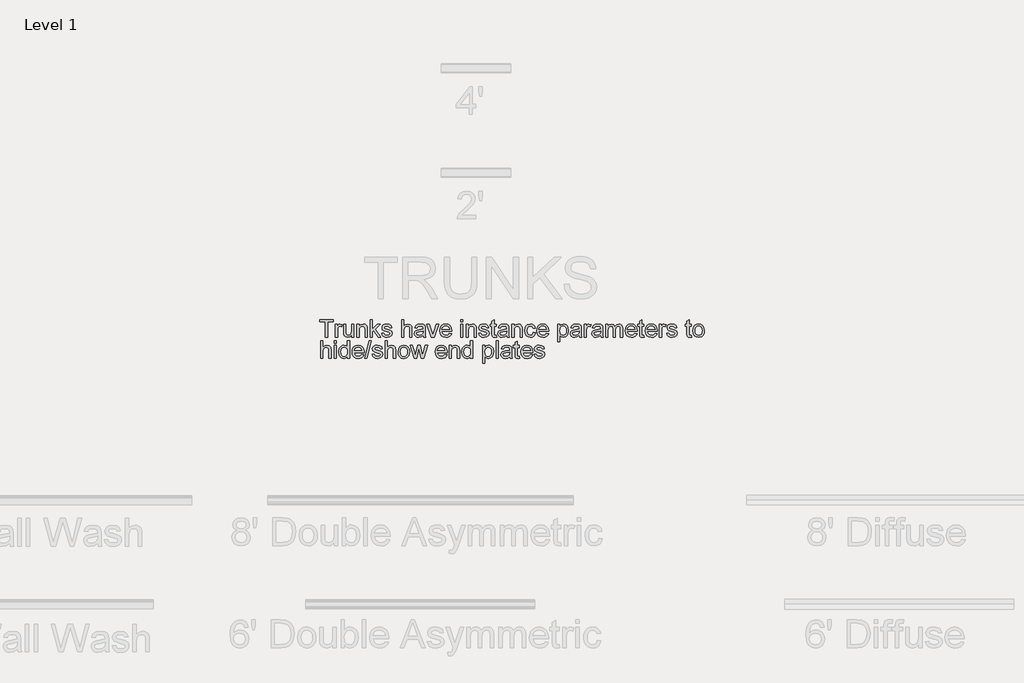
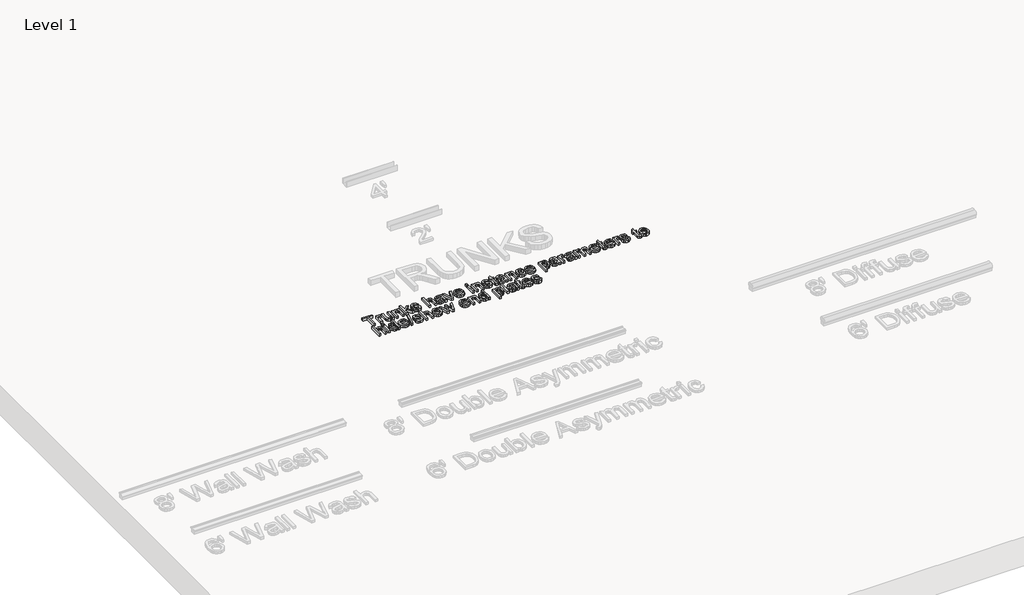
# One storey, part 6 of 9: 1 proxy.
"""IFC4 building model written with IfcOpenShell, lengths in millimetres."""

import ifcopenshell
import ifcopenshell.guid

model = None  # the IFC model being written
_history = None  # IfcOwnerHistory: only IFC2X3 demands one
_inside = {}  # id of a spatial element -> (the spatial element, [elements in it])
_under = {}  # id of a project, library or spatial element -> (it, [spatial elements below it])
_declared = {}  # id of a project -> (the project, [libraries it declares])
_typed = {}  # id of a type object -> (the type object, [elements of that type])
_made_of = {}  # id of a material, layer set ... -> (it, [elements and type objects made of it])


def new_model(schema):
    """Start an empty IFC model of exactly this schema.

    Asked for "IFC4X3", IfcOpenShell would pick the latest addendum, in which some entities
    have other attributes; the version numbers below select the first issue.
    IFC2X3 requires an IfcOwnerHistory on every rooted entity: one is made here for all.
    """
    global model, _history
    if schema == "IFC4X3":
        model = ifcopenshell.file(schema_version=(4, 3, 0, 0))
    else:
        model = ifcopenshell.file(schema=schema)
    _inside.clear()
    _under.clear()
    _declared.clear()
    _typed.clear()
    _made_of.clear()
    _history = None
    if model.schema == "IFC2X3":
        org = make("IfcOrganization", Name="unknown")
        user = make(
            "IfcPersonAndOrganization",
            ThePerson=make("IfcPerson", FamilyName="unknown"),
            TheOrganization=org,
        )
        app = make(
            "IfcApplication",
            ApplicationDeveloper=org,
            Version="unknown",
            ApplicationFullName="unknown",
            ApplicationIdentifier="unknown",
        )
        _history = make(
            "IfcOwnerHistory",
            OwningUser=user,
            OwningApplication=app,
            ChangeAction="ADDED",
            CreationDate=0,
        )
    return model


def make(cls, **values):
    """One entity of the class cls with the attributes given. An attribute that is None is left unset."""
    return model.create_entity(
        cls, **{name: value for name, value in values.items() if value is not None}
    )


def rooted(cls, **values):
    """An entity with a GlobalId (a new one), such as an element, a storey or a relation."""
    return make(cls, GlobalId=ifcopenshell.guid.new(), OwnerHistory=_history, **values)


def si_unit(unit_type, name, prefix=None):
    """IfcSIUnit, for example si_unit("LENGTHUNIT", "METRE", prefix="MILLI")."""
    return make("IfcSIUnit", UnitType=unit_type, Prefix=prefix, Name=name)


def assignment(units):
    """IfcUnitAssignment: the units of a project."""
    return None if units is None else make("IfcUnitAssignment", Units=units)


def point(xyz):
    """IfcCartesianPoint."""
    return None if xyz is None else make("IfcCartesianPoint", Coordinates=xyz)


def direction(xyz):
    """IfcDirection."""
    return None if xyz is None else make("IfcDirection", DirectionRatios=xyz)


def frame(location, z_axis=None, x_axis=None):
    """IfcAxis2Placement3D, a coordinate frame: its origin and axes. An axis left out is left unset."""
    return make(
        "IfcAxis2Placement3D",
        Location=point(location),
        Axis=direction(z_axis),
        RefDirection=direction(x_axis),
    )


def origin():
    """The frame at (0, 0, 0) with its axes left unset."""
    return frame((0.0, 0.0, 0.0))


def origin_with_axes():
    """The frame at (0, 0, 0) with the z axis (0, 0, 1) and the x axis (1, 0, 0) written out."""
    return frame((0.0, 0.0, 0.0), z_axis=(0.0, 0.0, 1.0), x_axis=(1.0, 0.0, 0.0))


def place(relative_to, where):
    """IfcLocalPlacement: puts the frame where relative to a parent placement (None: the world)."""
    return make(
        "IfcLocalPlacement", PlacementRelTo=relative_to, RelativePlacement=where
    )


def context(
    kind, dimensions, precision=None, world=None, true_north=None, identifier=None
):
    """IfcGeometricRepresentationContext, for example the 3D "Model" context."""
    return make(
        "IfcGeometricRepresentationContext",
        ContextIdentifier=identifier,
        ContextType=kind,
        CoordinateSpaceDimension=dimensions,
        Precision=precision,
        WorldCoordinateSystem=world,
        TrueNorth=true_north,
    )


def project(units=None, contexts=None):
    """IfcProject with its units and contexts."""
    return rooted(
        "IfcProject",
        Name="project",
        RepresentationContexts=contexts,
        UnitsInContext=assignment(units),
    )


def spatial(cls, under=None, at=None, **own):
    """A site, building, storey or space (cls), placed at a placement, below another one or the project."""
    s = rooted(cls, ObjectPlacement=at, **own)
    if under is not None:
        _under.setdefault(under.id(), (under, []))[1].append(s)
    return s


def polyline(points):
    """IfcPolyline through the points."""
    return make("IfcPolyline", Points=[point(p) for p in points])


def outline(outer, holes=None, kind="AREA"):
    """IfcArbitraryClosedProfileDef: a profile drawn as a closed curve; with holes, ...WithVoids."""
    if holes is None:
        return make("IfcArbitraryClosedProfileDef", ProfileType=kind, OuterCurve=outer)
    return make(
        "IfcArbitraryProfileDefWithVoids",
        ProfileType=kind,
        OuterCurve=outer,
        InnerCurves=holes,
    )


def extrude(swept, where, along, depth):
    """IfcExtrudedAreaSolid: the profile swept, set in the frame where, extruded along a direction by depth."""
    return make(
        "IfcExtrudedAreaSolid",
        SweptArea=swept,
        Position=where,
        ExtrudedDirection=direction(along),
        Depth=depth,
    )


def shape(context_of_items, identifier, shape_type, items):
    """IfcShapeRepresentation: the items that make up one representation, for example the "Body"."""
    return make(
        "IfcShapeRepresentation",
        ContextOfItems=context_of_items,
        RepresentationIdentifier=identifier,
        RepresentationType=shape_type,
        Items=items,
    )


def made_of(thing, what):
    """Note that an element or type object is made of a material, layer set ...; save() writes the relation."""
    if what is not None:
        _made_of.setdefault(what.id(), (what, []))[1].append(thing)
    return thing


def element(
    cls,
    number,
    at=None,
    inside=None,
    cuts=None,
    type_object=None,
    material=None,
    context=None,
    identifier="Body",
    shape_type=None,
    held_by="IfcProductDefinitionShape",
    body=None,
    shapes=None,
    **own,
):
    """One element of the class cls, such as IfcWall. Its Tag is "e" and its number.

    at: its placement. inside: the storey or other place that contains it. cuts: it is an
    opening in that element (IfcRelVoidsElement). A single representation is given by context,
    identifier, shape_type and body (its items); several are given by shapes. held_by: the class
    of the entity that holds the representations. save() writes the other relations.
    """
    e = rooted(cls, Tag="e%d" % number, ObjectPlacement=at, **own)
    if body is not None:
        shapes = [shape(context, identifier, shape_type, body)]
    if shapes is not None:
        e.Representation = make(held_by, Representations=shapes)
    if inside is not None:
        _inside.setdefault(inside.id(), (inside, []))[1].append(e)
    if cuts is not None:
        rooted(
            "IfcRelVoidsElement", RelatingBuildingElement=cuts, RelatedOpeningElement=e
        )
    if type_object is not None:
        _typed.setdefault(type_object.id(), (type_object, []))[1].append(e)
    return made_of(e, material)


def aggregate(whole, parts):
    """IfcRelAggregates: a whole, such as a stair, and the parts it consists of."""
    return rooted("IfcRelAggregates", RelatingObject=whole, RelatedObjects=parts)


def save(model, path):
    """Write the relations noted so far, then the file.

    IfcRelAggregates (storeys below a building ...), IfcRelContainedInSpatialStructure (elements
    in a storey), IfcRelDefinesByType, IfcRelAssociatesMaterial and IfcRelDeclares: one each for
    every whole, place, type object, material and project.
    """
    for whole, parts in _under.values():
        aggregate(whole, parts)
    for where, things in _inside.values():
        rooted(
            "IfcRelContainedInSpatialStructure",
            RelatedElements=things,
            RelatingStructure=where,
        )
    for kind, things in _typed.values():
        rooted("IfcRelDefinesByType", RelatedObjects=things, RelatingType=kind)
    for what, things in _made_of.values():
        rooted("IfcRelAssociatesMaterial", RelatedObjects=things, RelatingMaterial=what)
    for by, libraries in _declared.values():
        rooted("IfcRelDeclares", RelatingContext=by, RelatedDefinitions=libraries)
    model.write(path)


model = new_model("IFC4")

# Units and contexts
model_context = context("Model", 3, world=origin())
ifc_project = project(units=[si_unit("LENGTHUNIT", "METRE", prefix="MILLI")], contexts=[model_context])

# Site, building, storey
site = spatial("IfcSite", under=ifc_project)
building = spatial("IfcBuilding", under=site)
storey = spatial("IfcBuildingStorey", under=building, Name="Level 1", Elevation=0.0)

# Proxy
placement = place(None, origin())
element("IfcBuildingElementProxy", 1, Name="5\"", ObjectType="5\"", at=placement, inside=storey, context=model_context, shape_type="SweptSolid", body=[
    extrude(outline(polyline([(-8440.875336, 8972.2970879), (-8440.875336, 9083.9291626), (-8482.737364, 9083.9291626), (-8482.737364, 9099.8766018), (-8383.0658688, 9099.8766018), (-8383.0658688, 9083.9291626), (-8424.9278968, 9083.9291626), (-8424.9278968, 8972.2970879), (-8440.875336, 8972.2970879)])), origin_with_axes(), (0.0, 0.0, 1.0), 25.4),
    extrude(outline(polyline([(-8367.1184295, 8972.2970879), (-8367.1184295, 9065.9882934), (-8353.1644202, 9065.9882934), (-8353.1644202, 9052.1277261), (-8343.2595654, 9064.8981365), (-8333.2924158, 9067.9817233), (-8317.2826819, 9063.0604433), (-8322.6088774, 9048.7638132), (-8333.8219207, 9052.0342841), (-8342.8390762, 9048.8884025), (-8348.5857609, 9040.1671467), (-8351.1709903, 9021.541036), (-8351.1709903, 8972.2970879), (-8367.1184295, 8972.2970879)])), origin_with_axes(), (0.0, 0.0, 1.0), 25.4),
    extrude(outline(polyline([(-8247.5126353, 8972.2970879), (-8247.5126353, 8988.4002639), (-8260.0027195, 8974.8278095), (-8276.2927795, 8970.303658), (-8291.2902248, 8973.4806869), (-8301.6311424, 8981.4544065), (-8306.3811121, 8993.1969546), (-8307.3155324, 9008.0230895), (-8307.3155324, 9065.9882934), (-8291.3680932, 9065.9882934), (-8291.3680932, 9015.529599), (-8290.4025256, 8999.2706863), (-8284.0951887, 8989.7240259), (-8272.2124777, 8986.2510973), (-8258.8969889, 8989.8018943), (-8250.0978647, 8999.473144), (-8247.5126353, 9017.2427028), (-8247.5126353, 9065.9882934), (-8231.565196, 9065.9882934), (-8231.565196, 8972.2970879), (-8247.5126353, 8972.2970879)])), origin_with_axes(), (0.0, 0.0, 1.0), 25.4),
    extrude(outline(polyline([(-8209.6374671, 8972.2970879), (-8209.6374671, 9065.9882934), (-8193.6900278, 9065.9882934), (-8193.6900278, 9052.9064097), (-8181.4958433, 9064.2128949), (-8164.8475889, 9067.9817233), (-8149.7878489, 9064.9448575), (-8139.509226, 9056.9711379), (-8134.7281089, 9045.2441635), (-8133.8871307, 9029.8262291), (-8133.8871307, 8972.2970879), (-8149.8345699, 8972.2970879), (-8149.8345699, 9027.6770625), (-8151.6722631, 9041.7868085), (-8158.166484, 9049.246597), (-8169.1147748, 9052.0342841), (-8178.4550841, 9050.4691302), (-8186.4171234, 9045.7736683), (-8191.8718017, 9036.7020049), (-8193.6900278, 9022.0082462), (-8193.6900278, 8972.2970879), (-8209.6374671, 8972.2970879)])), origin_with_axes(), (0.0, 0.0, 1.0), 25.4),
    extrude(outline(polyline([(-8111.9594018, 8972.2970879), (-8111.9594018, 9099.8766018), (-8096.0119625, 9099.8766018), (-8096.0119625, 9031.3213015), (-8060.2548136, 9065.9882934), (-8038.2024953, 9065.9882934), (-8074.395707, 9030.8852387), (-8036.2090654, 8972.2970879), (-8054.8351761, 8972.2970879), (-8085.8267816, 9019.7967849), (-8096.0119625, 9009.9230774), (-8096.0119625, 8972.2970879), (-8111.9594018, 8972.2970879)])), origin_with_axes(), (0.0, 0.0, 1.0), 25.4),
    extrude(outline(polyline([(-8028.2353458, 9000.2051066), (-8012.2879065, 9002.1985365), (-8004.9059864, 8990.3625464), (-7987.9929796, 8986.2510973), (-7971.7340669, 8990.0199257), (-7966.4390187, 8998.8657709), (-7971.7652143, 9006.0296596), (-7988.1798636, 9010.5771716), (-8012.1944645, 9018.3795808), (-8022.6755452, 9027.4901784), (-8026.2419159, 9040.3540308), (-8023.3763604, 9052.2367418), (-8015.5583775, 9061.3161921), (-8005.4199176, 9066.0350144), (-7991.6995133, 9067.9817233), (-7972.2947191, 9064.8514154), (-7959.9603715, 9056.3793383), (-7954.4784393, 9042.0671346), (-7970.4258785, 9040.0737047), (-7976.4217419, 9048.8728289), (-7990.4536196, 9052.0342841), (-8005.7158173, 9049.0129919), (-8010.2944766, 9041.9736926), (-8008.3944887, 9037.3327386), (-8002.4453464, 9033.8130889), (-7988.7093684, 9030.4180286), (-7965.3021407, 9022.9115191), (-7954.4317183, 9014.4082947), (-7950.4915795, 9000.5477273), (-7955.1169598, 8985.2855296), (-7968.463596, 8974.2126495), (-7988.211011, 8970.303658), (-8004.2908264, 8972.1880722), (-8016.0255876, 8977.8413148), (-8023.8591442, 8987.2010912), (-8028.2353458, 9000.2051066)])), origin_with_axes(), (0.0, 0.0, 1.0), 25.4),
    extrude(outline(polyline([(-7882.7149627, 8972.2970879), (-7882.7149627, 9099.8766018), (-7866.7675235, 9099.8766018), (-7866.7675235, 9052.9687044), (-7854.3319471, 9064.2284686), (-7839.0152415, 9067.9817233), (-7821.1055197, 9063.8858478), (-7810.2350973, 9052.5637889), (-7806.9646264, 9031.6016276), (-7806.9646264, 8972.2970879), (-7822.9120656, 8972.2970879), (-7822.9120656, 9029.9508184), (-7824.1813198, 9039.9335416), (-7827.9890824, 9046.7703833), (-7834.1251088, 9050.7183089), (-7842.3791545, 9052.0342841), (-7855.4454646, 9048.4834871), (-7864.1667204, 9038.8589583), (-7866.7675235, 9022.0705408), (-7866.7675235, 8972.2970879), (-7882.7149627, 8972.2970879)])), origin_with_axes(), (0.0, 0.0, 1.0), 25.4),
    extrude(outline(polyline([(-7725.2340003, 8984.2576673), (-7740.6986557, 8973.4495396), (-7757.7829729, 8970.303658), (-7771.110142, 8972.1958591), (-7780.9410219, 8977.8724622), (-7787.0030734, 8986.4924892), (-7789.0237572, 8997.2149617), (-7785.9713177, 9009.8296353), (-7777.950877, 9018.986954), (-7766.7845548, 9024.2197075), (-7752.9862822, 9026.6180528), (-7725.3274423, 9032.0999851), (-7725.2340003, 9035.6507821), (-7729.6257755, 9047.4244774), (-7747.2551713, 9052.0342841), (-7763.3894945, 9048.9662709), (-7771.0828881, 9038.0802748), (-7787.0303273, 9040.0737047), (-7780.131191, 9055.6473758), (-7766.2394764, 9064.7735471), (-7745.1994467, 9067.9817233), (-7725.8725208, 9065.1473152), (-7714.9553773, 9058.0301475), (-7710.0652446, 9047.2064461), (-7709.286561, 9033.2524367), (-7709.286561, 9013.4115797), (-7708.4767301, 8985.7060188), (-7705.2997012, 8972.2970879), (-7721.2471405, 8972.2970879), (-7725.2340003, 8984.2576673)]), holes=[polyline([(-7725.2340003, 9016.1525458), (-7750.961705, 9011.2624131), (-7764.6821092, 9008.6771837), (-7770.896004, 9004.4722925), (-7773.076318, 8998.336266), (-7768.3263483, 8989.7084522), (-7754.3879126, 8986.2510973), (-7738.2535893, 8990.0666467), (-7727.850377, 8999.3018337), (-7725.3274423, 9011.6361812), (-7725.2340003, 9016.1525458)])]), origin_with_axes(), (0.0, 0.0, 1.0), 25.4),
    extrude(outline(polyline([(-7664.3720935, 8972.2970879), (-7697.3259816, 9065.9882934), (-7680.4441221, 9065.9882934), (-7660.4786757, 9009.8607827), (-7654.4672387, 8990.9854933), (-7648.580391, 9008.801773), (-7628.4903552, 9065.9882934), (-7611.6084957, 9065.9882934), (-7644.1574684, 8972.2970879), (-7664.3720935, 8972.2970879)])), origin_with_axes(), (0.0, 0.0, 1.0), 25.4),
    extrude(outline(polyline([(-7532.0581836, 9000.2051066), (-7516.4222178, 8998.2116767), (-7522.0559933, 8986.4301945), (-7531.045895, 8977.6232834), (-7543.189465, 8972.1335644), (-7558.2842458, 8970.303658), (-7576.9960116, 8973.4612198), (-7591.3938706, 8982.9339053), (-7600.5745497, 8998.1065544), (-7603.6347761, 9018.3640071), (-7600.5434024, 9039.302808), (-7591.2692812, 9054.9621343), (-7577.0660932, 9064.7268261), (-7559.1875187, 9067.9817233), (-7541.865703, 9064.7346129), (-7528.0246028, 9054.9932816), (-7518.9490459, 9039.3651026), (-7515.9238603, 9018.4574491), (-7516.0173023, 9014.1591159), (-7587.6873369, 9014.1591159), (-7584.9269037, 9002.221897), (-7578.5144446, 8993.4461333), (-7569.2597905, 8988.0498563), (-7557.9727723, 8986.2510973), (-7542.3368065, 8989.5838629), (-7532.0581836, 9000.2051066)]), holes=[polyline([(-7587.6873369, 9030.1065552), (-7531.8712995, 9030.1065552), (-7538.2565047, 9044.558922), (-7547.5539864, 9050.1654436), (-7559.2498134, 9052.0342841), (-7569.9995399, 9050.5431051), (-7578.8882127, 9046.0695681), (-7585.0670667, 9039.0964568), (-7587.6873369, 9030.1065552)])]), origin_with_axes(), (0.0, 0.0, 1.0), 25.4),
    extrude(outline(polyline([(-7450.1406735, 9083.9291626), (-7450.1406735, 9099.8766018), (-7434.1932342, 9099.8766018), (-7434.1932342, 9083.9291626), (-7450.1406735, 9083.9291626)])), origin_with_axes(), (0.0, 0.0, 1.0), 25.4),
    extrude(outline(polyline([(-7450.1406735, 8972.2970879), (-7450.1406735, 9065.9882934), (-7434.1932342, 9065.9882934), (-7434.1932342, 8972.2970879), (-7450.1406735, 8972.2970879)])), origin_with_axes(), (0.0, 0.0, 1.0), 25.4),
    extrude(outline(polyline([(-7410.2720754, 8972.2970879), (-7410.2720754, 9065.9882934), (-7394.3246361, 9065.9882934), (-7394.3246361, 9052.9064097), (-7382.1304516, 9064.2128949), (-7365.4821972, 9067.9817233), (-7350.4224572, 9064.9448575), (-7340.1438343, 9056.9711379), (-7335.3627172, 9045.2441635), (-7334.521739, 9029.8262291), (-7334.521739, 8972.2970879), (-7350.4691782, 8972.2970879), (-7350.4691782, 9027.6770625), (-7352.3068714, 9041.7868085), (-7358.8010923, 9049.246597), (-7369.7493831, 9052.0342841), (-7379.0896923, 9050.4691302), (-7387.0517317, 9045.7736683), (-7392.50641, 9036.7020049), (-7394.3246361, 9022.0082462), (-7394.3246361, 8972.2970879), (-7410.2720754, 8972.2970879)])), origin_with_axes(), (0.0, 0.0, 1.0), 25.4),
    extrude(outline(polyline([(-7318.5742998, 9000.2051066), (-7302.6268605, 9002.1985365), (-7295.2449404, 8990.3625464), (-7278.3319336, 8986.2510973), (-7262.0730209, 8990.0199257), (-7256.7779727, 8998.8657709), (-7262.1041682, 9006.0296596), (-7278.5188176, 9010.5771716), (-7302.5334185, 9018.3795808), (-7313.0144992, 9027.4901784), (-7316.5808698, 9040.3540308), (-7313.7153144, 9052.2367418), (-7305.8973315, 9061.3161921), (-7295.7588715, 9066.0350144), (-7282.0384673, 9067.9817233), (-7262.6336731, 9064.8514154), (-7250.2993255, 9056.3793383), (-7244.8173933, 9042.0671346), (-7260.7648325, 9040.0737047), (-7266.7606959, 9048.8728289), (-7280.7925736, 9052.0342841), (-7296.0547713, 9049.0129919), (-7300.6334306, 9041.9736926), (-7298.7334427, 9037.3327386), (-7292.7843004, 9033.8130889), (-7279.0483224, 9030.4180286), (-7255.6410947, 9022.9115191), (-7244.7706723, 9014.4082947), (-7240.8305335, 9000.5477273), (-7245.4559138, 8985.2855296), (-7258.80255, 8974.2126495), (-7278.5499649, 8970.303658), (-7294.6297804, 8972.1880722), (-7306.3645416, 8977.8413148), (-7314.1980982, 8987.2010912), (-7318.5742998, 9000.2051066)])), origin_with_axes(), (0.0, 0.0, 1.0), 25.4),
    extrude(outline(polyline([(-7189.001356, 8985.5970031), (-7187.0079261, 8971.8298778), (-7198.9373581, 8970.303658), (-7212.299568, 8972.9511821), (-7218.9650992, 8979.8970394), (-7220.8962344, 8997.9936453), (-7220.8962344, 9050.0408542), (-7232.8568139, 9050.0408542), (-7232.8568139, 9065.9882934), (-7220.8962344, 9065.9882934), (-7220.8962344, 9088.7570006), (-7204.9487952, 9098.1323506), (-7204.9487952, 9065.9882934), (-7189.001356, 9065.9882934), (-7189.001356, 9050.0408542), (-7204.9487952, 9050.0408542), (-7204.9487952, 8998.4608554), (-7204.107817, 8990.2379571), (-7201.3824245, 8987.3256806), (-7195.9472133, 8986.2510973), (-7189.001356, 8985.5970031)])), origin_with_axes(), (0.0, 0.0, 1.0), 25.4),
    extrude(outline(polyline([(-7113.2510196, 8984.2576673), (-7128.715675, 8973.4495396), (-7145.7999922, 8970.303658), (-7159.1271613, 8972.1958591), (-7168.9580412, 8977.8724622), (-7175.0200927, 8986.4924892), (-7177.0407765, 8997.2149617), (-7173.988337, 9009.8296353), (-7165.9678964, 9018.986954), (-7154.8015742, 9024.2197075), (-7141.0033015, 9026.6180528), (-7113.3444616, 9032.0999851), (-7113.2510196, 9035.6507821), (-7117.6427948, 9047.4244774), (-7135.2721906, 9052.0342841), (-7151.4065139, 9048.9662709), (-7159.0999074, 9038.0802748), (-7175.0473466, 9040.0737047), (-7168.1482103, 9055.6473758), (-7154.2564957, 9064.7735471), (-7133.216466, 9067.9817233), (-7113.8895401, 9065.1473152), (-7102.9723966, 9058.0301475), (-7098.0822639, 9047.2064461), (-7097.3035803, 9033.2524367), (-7097.3035803, 9013.4115797), (-7096.4937494, 8985.7060188), (-7093.3167205, 8972.2970879), (-7109.2641598, 8972.2970879), (-7113.2510196, 8984.2576673)]), holes=[polyline([(-7113.2510196, 9016.1525458), (-7138.9787243, 9011.2624131), (-7152.6991286, 9008.6771837), (-7158.9130233, 9004.4722925), (-7161.0933373, 8998.336266), (-7156.3433676, 8989.7084522), (-7142.4049319, 8986.2510973), (-7126.2706086, 8990.0666467), (-7115.8673963, 8999.3018337), (-7113.3444616, 9011.6361812), (-7113.2510196, 9016.1525458)])]), origin_with_axes(), (0.0, 0.0, 1.0), 25.4),
    extrude(outline(polyline([(-7075.3758514, 8972.2970879), (-7075.3758514, 9065.9882934), (-7059.4284122, 9065.9882934), (-7059.4284122, 9052.9064097), (-7047.2342277, 9064.2128949), (-7030.5859732, 9067.9817233), (-7015.5262332, 9064.9448575), (-7005.2476103, 9056.9711379), (-7000.4664933, 9045.2441635), (-6999.625515, 9029.8262291), (-6999.625515, 8972.2970879), (-7015.5729543, 8972.2970879), (-7015.5729543, 9027.6770625), (-7017.4106475, 9041.7868085), (-7023.9048683, 9049.246597), (-7034.8531591, 9052.0342841), (-7044.1934684, 9050.4691302), (-7052.1555077, 9045.7736683), (-7057.6101861, 9036.7020049), (-7059.4284122, 9022.0082462), (-7059.4284122, 8972.2970879), (-7075.3758514, 8972.2970879)])), origin_with_axes(), (0.0, 0.0, 1.0), 25.4),
    extrude(outline(polyline([(-6917.8948889, 9006.1853963), (-6901.9474497, 9004.1919664), (-6906.3937328, 8990.0082454), (-6914.7490074, 8979.2896663), (-6926.226803, 8972.5501601), (-6940.0406493, 8970.303658), (-6957.0042706, 8973.4378593), (-6970.2691449, 8982.8404633), (-6978.8307707, 8998.0987676), (-6981.6846459, 9018.8000699), (-6976.8100868, 9045.2908845), (-6970.6584867, 9055.2229933), (-6961.9528046, 9062.312907), (-6940.2586807, 9067.9817233), (-6926.7835617, 9066.0350144), (-6916.0104747, 9060.1948878), (-6908.2820404, 9050.7728167), (-6903.9408796, 9038.0802748), (-6919.8883188, 9036.0868449), (-6927.2858126, 9048.0318506), (-6940.1340913, 9052.0342841), (-6950.4399682, 9050.0642147), (-6958.6200389, 9044.1540065), (-6963.9579147, 9033.9843993), (-6965.7372066, 9019.2361327), (-6963.9968489, 9004.2893018), (-6958.7757757, 8994.0846538), (-6950.7436548, 8988.2094864), (-6940.5701541, 8986.2510973), (-6925.5415615, 8991.14123), (-6917.8948889, 9006.1853963)])), origin_with_axes(), (0.0, 0.0, 1.0), 25.4),
    extrude(outline(polyline([(-6822.3971376, 9000.2051066), (-6806.7611718, 8998.2116767), (-6812.3949473, 8986.4301945), (-6821.384849, 8977.6232834), (-6833.528419, 8972.1335644), (-6848.6231998, 8970.303658), (-6867.3349656, 8973.4612198), (-6881.7328246, 8982.9339053), (-6890.9135037, 8998.1065544), (-6893.9737301, 9018.3640071), (-6890.8823564, 9039.302808), (-6881.6082352, 9054.9621343), (-6867.4050471, 9064.7268261), (-6849.5264727, 9067.9817233), (-6832.204657, 9064.7346129), (-6818.3635568, 9054.9932816), (-6809.2879999, 9039.3651026), (-6806.2628143, 9018.4574491), (-6806.3562563, 9014.1591159), (-6878.0262909, 9014.1591159), (-6875.2658576, 9002.221897), (-6868.8533986, 8993.4461333), (-6859.5987445, 8988.0498563), (-6848.3117263, 8986.2510973), (-6832.6757605, 8989.5838629), (-6822.3971376, 9000.2051066)]), holes=[polyline([(-6878.0262909, 9030.1065552), (-6822.2102535, 9030.1065552), (-6828.5954587, 9044.558922), (-6837.8929404, 9050.1654436), (-6849.5887674, 9052.0342841), (-6860.3384939, 9050.5431051), (-6869.2271667, 9046.0695681), (-6875.4060207, 9039.0964568), (-6878.0262909, 9030.1065552)])]), origin_with_axes(), (0.0, 0.0, 1.0), 25.4),
    extrude(outline(polyline([(-6740.4796274, 8936.4153496), (-6740.4796274, 9065.9882934), (-6724.5321882, 9065.9882934), (-6724.5321882, 9050.3523276), (-6713.506029, 9063.5743744), (-6698.6175994, 9067.9817233), (-6687.8328322, 9066.4399299), (-6678.4029743, 9061.8145496), (-6670.7251545, 9054.3859084), (-6665.1965012, 9044.4343326), (-6660.7424313, 9019.8590795), (-6665.772727, 8994.0223591), (-6671.9399008, 8983.8838992), (-6680.3808306, 8976.4241108), (-6700.5487347, 8970.303658), (-6714.4248756, 8974.3995335), (-6724.5321882, 8984.7560248), (-6724.5321882, 8936.4153496), (-6740.4796274, 8936.4153496)]), holes=[polyline([(-6724.5321882, 9018.3951545), (-6722.8074041, 9004.0985244), (-6717.6330519, 8994.1002275), (-6709.9980596, 8988.2133798), (-6700.8913554, 8986.2510973), (-6691.6367014, 8988.2834613), (-6683.8070382, 8994.3805536), (-6678.4691624, 9004.7448317), (-6676.6898705, 9019.5787535), (-6678.4263348, 9033.7975152), (-6683.6357278, 9043.9359751), (-6691.2590398, 9050.0097069), (-6700.2372612, 9052.0342841), (-6709.2505234, 9049.8812241), (-6717.1658418, 9043.422044), (-6722.6906016, 9032.8592015), (-6724.5321882, 9018.3951545)])]), origin_with_axes(), (0.0, 0.0, 1.0), 25.4),
    extrude(outline(polyline([(-6582.998665, 8984.2576673), (-6598.4633204, 8973.4495396), (-6615.5476376, 8970.303658), (-6628.8748067, 8972.1958591), (-6638.7056866, 8977.8724622), (-6644.7677381, 8986.4924892), (-6646.7884219, 8997.2149617), (-6643.7359824, 9009.8296353), (-6635.7155418, 9018.986954), (-6624.5492196, 9024.2197075), (-6610.7509469, 9026.6180528), (-6583.092107, 9032.0999851), (-6582.998665, 9035.6507821), (-6587.3904402, 9047.4244774), (-6605.019836, 9052.0342841), (-6621.1541592, 9048.9662709), (-6628.8475528, 9038.0802748), (-6644.794992, 9040.0737047), (-6637.8958557, 9055.6473758), (-6624.0041411, 9064.7735471), (-6602.9641114, 9067.9817233), (-6583.6371855, 9065.1473152), (-6572.720042, 9058.0301475), (-6567.8299093, 9047.2064461), (-6567.0512257, 9033.2524367), (-6567.0512257, 9013.4115797), (-6566.2413948, 8985.7060188), (-6563.0643659, 8972.2970879), (-6579.0118052, 8972.2970879), (-6582.998665, 8984.2576673)]), holes=[polyline([(-6582.998665, 9016.1525458), (-6608.7263697, 9011.2624131), (-6622.4467739, 9008.6771837), (-6628.6606687, 9004.4722925), (-6630.8409827, 8998.336266), (-6626.091013, 8989.7084522), (-6612.1525773, 8986.2510973), (-6596.018254, 8990.0666467), (-6585.6150417, 8999.3018337), (-6583.092107, 9011.6361812), (-6582.998665, 9016.1525458)])]), origin_with_axes(), (0.0, 0.0, 1.0), 25.4),
    extrude(outline(polyline([(-6545.1234968, 8972.2970879), (-6545.1234968, 9065.9882934), (-6531.1694875, 9065.9882934), (-6531.1694875, 9052.1277261), (-6521.2646326, 9064.8981365), (-6511.2974831, 9067.9817233), (-6495.2877492, 9063.0604433), (-6500.6139447, 9048.7638132), (-6511.8269879, 9052.0342841), (-6520.8441435, 9048.8884025), (-6526.5908281, 9040.1671467), (-6529.1760576, 9021.541036), (-6529.1760576, 8972.2970879), (-6545.1234968, 8972.2970879)])), origin_with_axes(), (0.0, 0.0, 1.0), 25.4),
    extrude(outline(polyline([(-6425.5177025, 8984.2576673), (-6440.982358, 8973.4495396), (-6458.0666752, 8970.303658), (-6471.3938443, 8972.1958591), (-6481.2247242, 8977.8724622), (-6487.2867756, 8986.4924892), (-6489.3074595, 8997.2149617), (-6486.2550199, 9009.8296353), (-6478.2345793, 9018.986954), (-6467.0682571, 9024.2197075), (-6453.2699845, 9026.6180528), (-6425.6111445, 9032.0999851), (-6425.5177025, 9035.6507821), (-6429.9094778, 9047.4244774), (-6447.5388735, 9052.0342841), (-6463.6731968, 9048.9662709), (-6471.3665903, 9038.0802748), (-6487.3140296, 9040.0737047), (-6480.4148933, 9055.6473758), (-6466.5231786, 9064.7735471), (-6445.4831489, 9067.9817233), (-6426.156223, 9065.1473152), (-6415.2390796, 9058.0301475), (-6410.3489468, 9047.2064461), (-6409.5702633, 9033.2524367), (-6409.5702633, 9013.4115797), (-6408.7604324, 8985.7060188), (-6405.5834035, 8972.2970879), (-6421.5308427, 8972.2970879), (-6425.5177025, 8984.2576673)]), holes=[polyline([(-6425.5177025, 9016.1525458), (-6451.2454072, 9011.2624131), (-6464.9658115, 9008.6771837), (-6471.1797063, 9004.4722925), (-6473.3600202, 8998.336266), (-6468.6100505, 8989.7084522), (-6454.6716149, 8986.2510973), (-6438.5372916, 8990.0666467), (-6428.1340793, 8999.3018337), (-6425.6111445, 9011.6361812), (-6425.5177025, 9016.1525458)])]), origin_with_axes(), (0.0, 0.0, 1.0), 25.4),
    extrude(outline(polyline([(-6387.6425343, 8972.2970879), (-6387.6425343, 9065.9882934), (-6371.6950951, 9065.9882934), (-6371.6950951, 9050.570359), (-6360.7312306, 9063.2006063), (-6345.1264122, 9067.9817233), (-6329.1478256, 9063.1071643), (-6320.3642751, 9049.4490547), (-6307.9209118, 9063.3485562), (-6292.2070777, 9067.9817233), (-6280.2192443, 9066.0544815), (-6271.353932, 9060.2727561), (-6265.8758932, 9050.4808104), (-6264.0498803, 9036.5229077), (-6264.0498803, 8972.2970879), (-6279.9973195, 8972.2970879), (-6279.9973195, 9029.6704924), (-6281.4768182, 9042.9859812), (-6286.8341611, 9049.5424967), (-6295.9447587, 9052.0342841), (-6304.5842528, 9050.4379828), (-6311.6274456, 9045.6490789), (-6316.3112271, 9037.3405254), (-6317.8724877, 9025.1852751), (-6317.8724877, 8972.2970879), (-6333.8199269, 8972.2970879), (-6333.8199269, 9031.4458909), (-6337.510887, 9046.8949726), (-6342.3815526, 9050.7494562), (-6349.6116294, 9052.0342841), (-6361.4164722, 9048.6080765), (-6369.2656024, 9038.5786322), (-6371.6950951, 9019.5476061), (-6371.6950951, 8972.2970879), (-6387.6425343, 8972.2970879)])), origin_with_axes(), (0.0, 0.0, 1.0), 25.4),
    extrude(outline(polyline([(-6174.5324186, 9000.2051066), (-6158.8964528, 8998.2116767), (-6164.5302283, 8986.4301945), (-6173.52013, 8977.6232834), (-6185.6637, 8972.1335644), (-6200.7584808, 8970.303658), (-6219.4702466, 8973.4612198), (-6233.8681056, 8982.9339053), (-6243.0487847, 8998.1065544), (-6246.1090111, 9018.3640071), (-6243.0176374, 9039.302808), (-6233.7435162, 9054.9621343), (-6219.5403282, 9064.7268261), (-6201.6617537, 9067.9817233), (-6184.339938, 9064.7346129), (-6170.4988378, 9054.9932816), (-6161.4232809, 9039.3651026), (-6158.3980953, 9018.4574491), (-6158.4915373, 9014.1591159), (-6230.1615719, 9014.1591159), (-6227.4011387, 9002.221897), (-6220.9886796, 8993.4461333), (-6211.7340255, 8988.0498563), (-6200.4470074, 8986.2510973), (-6184.8110415, 8989.5838629), (-6174.5324186, 9000.2051066)]), holes=[polyline([(-6230.1615719, 9030.1065552), (-6174.3455346, 9030.1065552), (-6180.7307397, 9044.558922), (-6190.0282214, 9050.1654436), (-6201.7240484, 9052.0342841), (-6212.4737749, 9050.5431051), (-6221.3624477, 9046.0695681), (-6227.5413017, 9039.0964568), (-6230.1615719, 9030.1065552)])]), origin_with_axes(), (0.0, 0.0, 1.0), 25.4),
    extrude(outline(polyline([(-6108.5623477, 8985.5970031), (-6106.5689178, 8971.8298778), (-6118.4983499, 8970.303658), (-6131.8605597, 8972.9511821), (-6138.526091, 8979.8970394), (-6140.4572262, 8997.9936453), (-6140.4572262, 9050.0408542), (-6152.4178056, 9050.0408542), (-6152.4178056, 9065.9882934), (-6140.4572262, 9065.9882934), (-6140.4572262, 9088.7570006), (-6124.5097869, 9098.1323506), (-6124.5097869, 9065.9882934), (-6108.5623477, 9065.9882934), (-6108.5623477, 9050.0408542), (-6124.5097869, 9050.0408542), (-6124.5097869, 8998.4608554), (-6123.6688087, 8990.2379571), (-6120.9434162, 8987.3256806), (-6115.508205, 8986.2510973), (-6108.5623477, 8985.5970031)])), origin_with_axes(), (0.0, 0.0, 1.0), 25.4),
    extrude(outline(polyline([(-6027.0186057, 9000.2051066), (-6011.3826399, 8998.2116767), (-6017.0164154, 8986.4301945), (-6026.006317, 8977.6232834), (-6038.1498871, 8972.1335644), (-6053.2446679, 8970.303658), (-6071.9564337, 8973.4612198), (-6086.3542927, 8982.9339053), (-6095.5349718, 8998.1065544), (-6098.5951982, 9018.3640071), (-6095.5038245, 9039.302808), (-6086.2297033, 9054.9621343), (-6072.0265152, 9064.7268261), (-6054.1479408, 9067.9817233), (-6036.8261251, 9064.7346129), (-6022.9850248, 9054.9932816), (-6013.909468, 9039.3651026), (-6010.8842824, 9018.4574491), (-6010.9777244, 9014.1591159), (-6082.6477589, 9014.1591159), (-6079.8873257, 9002.221897), (-6073.4748666, 8993.4461333), (-6064.2202126, 8988.0498563), (-6052.9331944, 8986.2510973), (-6037.2972286, 8989.5838629), (-6027.0186057, 9000.2051066)]), holes=[polyline([(-6082.6477589, 9030.1065552), (-6026.8317216, 9030.1065552), (-6033.2169268, 9044.558922), (-6042.5144084, 9050.1654436), (-6054.2102355, 9052.0342841), (-6064.959962, 9050.5431051), (-6073.8486348, 9046.0695681), (-6080.0274888, 9039.0964568), (-6082.6477589, 9030.1065552)])]), origin_with_axes(), (0.0, 0.0, 1.0), 25.4),
    extrude(outline(polyline([(-5994.9368431, 8972.2970879), (-5994.9368431, 9065.9882934), (-5980.9828338, 9065.9882934), (-5980.9828338, 9052.1277261), (-5971.077979, 9064.8981365), (-5961.1108295, 9067.9817233), (-5945.1010955, 9063.0604433), (-5950.4272911, 9048.7638132), (-5961.6403343, 9052.0342841), (-5970.6574899, 9048.8884025), (-5976.4041745, 9040.1671467), (-5978.9894039, 9021.541036), (-5978.9894039, 8972.2970879), (-5994.9368431, 8972.2970879)])), origin_with_axes(), (0.0, 0.0, 1.0), 25.4),
    extrude(outline(polyline([(-5941.1142357, 9000.2051066), (-5925.1667965, 9002.1985365), (-5917.7848764, 8990.3625464), (-5900.8718695, 8986.2510973), (-5884.6129569, 8990.0199257), (-5879.3179087, 8998.8657709), (-5884.6441042, 9006.0296596), (-5901.0587536, 9010.5771716), (-5925.0733545, 9018.3795808), (-5935.5544351, 9027.4901784), (-5939.1208058, 9040.3540308), (-5936.2552503, 9052.2367418), (-5928.4372674, 9061.3161921), (-5918.2988075, 9066.0350144), (-5904.5784033, 9067.9817233), (-5885.173609, 9064.8514154), (-5872.8392615, 9056.3793383), (-5867.3573293, 9042.0671346), (-5883.3047685, 9040.0737047), (-5889.3006319, 9048.8728289), (-5903.3325096, 9052.0342841), (-5918.5947073, 9049.0129919), (-5923.1733666, 9041.9736926), (-5921.2733787, 9037.3327386), (-5915.3242363, 9033.8130889), (-5901.5882584, 9030.4180286), (-5878.1810307, 9022.9115191), (-5867.3106082, 9014.4082947), (-5863.3704694, 9000.5477273), (-5867.9958498, 8985.2855296), (-5881.3424859, 8974.2126495), (-5901.0899009, 8970.303658), (-5917.1697164, 8972.1880722), (-5928.9044776, 8977.8413148), (-5936.7380341, 8987.2010912), (-5941.1142357, 9000.2051066)])), origin_with_axes(), (0.0, 0.0, 1.0), 25.4),
    extrude(outline(polyline([(-5761.7055443, 8985.5970031), (-5759.7121144, 8971.8298778), (-5771.6415465, 8970.303658), (-5785.0037563, 8972.9511821), (-5791.6692876, 8979.8970394), (-5793.6004228, 8997.9936453), (-5793.6004228, 9050.0408542), (-5805.5610022, 9050.0408542), (-5805.5610022, 9065.9882934), (-5793.6004228, 9065.9882934), (-5793.6004228, 9088.7570006), (-5777.6529835, 9098.1323506), (-5777.6529835, 9065.9882934), (-5761.7055443, 9065.9882934), (-5761.7055443, 9050.0408542), (-5777.6529835, 9050.0408542), (-5777.6529835, 8998.4608554), (-5776.8120053, 8990.2379571), (-5774.0866129, 8987.3256806), (-5768.6514016, 8986.2510973), (-5761.7055443, 8985.5970031)])), origin_with_axes(), (0.0, 0.0, 1.0), 25.4),
    extrude(outline(polyline([(-5749.7449649, 9019.1426907), (-5746.2953967, 9041.7323007), (-5735.9466923, 9057.6096584), (-5723.1607083, 9065.3887071), (-5707.8517895, 9067.9817233), (-5691.0984128, 9064.8241615), (-5677.7167359, 9055.3514761), (-5668.9448656, 9040.3112032), (-5666.0209089, 9020.4508791), (-5667.3135236, 9004.3399163), (-5671.1913677, 8992.0756503), (-5677.5415321, 8982.8910777), (-5686.2511077, 8976.0191953), (-5707.8517895, 8970.303658), (-5724.807624, 8973.4495396), (-5738.1737272, 8982.8871843), (-5746.8521555, 8998.242824), (-5749.7449649, 9019.1426907)]), holes=[polyline([(-5733.7975256, 9019.173838), (-5731.9520456, 9004.7409383), (-5726.4156055, 8994.4584219), (-5718.0836915, 8988.3029284), (-5707.8517895, 8986.2510973), (-5697.6666086, 8988.3146087), (-5689.3502682, 8994.505143), (-5683.8138282, 9004.9239289), (-5681.9683481, 9019.6721955), (-5683.8255084, 9033.6846061), (-5689.3969893, 9043.8269594), (-5697.7250099, 9049.9824529), (-5707.8517895, 9052.0342841), (-5718.0836915, 9049.9902398), (-5726.4156055, 9043.8581068), (-5731.9520456, 9033.5989509), (-5733.7975256, 9019.173838)])]), origin_with_axes(), (0.0, 0.0, 1.0), 25.4),
    extrude(outline(polyline([(-8474.7636444, 8817.3890693), (-8474.7636444, 8944.9685831), (-8458.8162051, 8944.9685831), (-8458.8162051, 8898.0606857), (-8446.3806287, 8909.3204499), (-8431.0639232, 8913.0737047), (-8413.1542014, 8908.9778292), (-8402.2837789, 8897.6557703), (-8399.013308, 8876.6936089), (-8399.013308, 8817.3890693), (-8414.9607472, 8817.3890693), (-8414.9607472, 8875.0427998), (-8416.2300014, 8885.025523), (-8420.037764, 8891.8623646), (-8426.1737905, 8895.8102902), (-8434.4278362, 8897.1262654), (-8447.4941462, 8893.5754684), (-8456.2154021, 8883.9509397), (-8458.8162051, 8867.1625222), (-8458.8162051, 8817.3890693), (-8474.7636444, 8817.3890693)])), origin_with_axes(), (0.0, 0.0, 1.0), 25.4),
    extrude(outline(polyline([(-8377.0855791, 8929.0211439), (-8377.0855791, 8944.9685831), (-8361.1381398, 8944.9685831), (-8361.1381398, 8929.0211439), (-8377.0855791, 8929.0211439)])), origin_with_axes(), (0.0, 0.0, 1.0), 25.4),
    extrude(outline(polyline([(-8377.0855791, 8817.3890693), (-8377.0855791, 8911.0802748), (-8361.1381398, 8911.0802748), (-8361.1381398, 8817.3890693), (-8377.0855791, 8817.3890693)])), origin_with_axes(), (0.0, 0.0, 1.0), 25.4),
    extrude(outline(polyline([(-8279.4075137, 8817.3890693), (-8279.4075137, 8832.4332356), (-8289.9586759, 8819.6550384), (-8304.5434189, 8815.3956394), (-8314.8531892, 8816.9374328), (-8324.2908339, 8821.5628131), (-8338.2448433, 8838.7717197), (-8343.1972707, 8864.14123), (-8338.634185, 8889.5263139), (-8332.9342214, 8899.5946923), (-8324.9605018, 8906.9999729), (-8315.3165059, 8911.5552717), (-8304.6057136, 8913.0737047), (-8289.9041681, 8908.7286504), (-8279.4075137, 8897.4377389), (-8279.4075137, 8944.9685831), (-8263.4600745, 8944.9685831), (-8263.4600745, 8817.3890693), (-8279.4075137, 8817.3890693)]), holes=[polyline([(-8327.2498314, 8864.2035247), (-8325.4510724, 8849.7784118), (-8320.0547954, 8839.5192559), (-8312.213452, 8833.3871229), (-8303.0794939, 8831.3430786), (-8293.9494292, 8833.2936809), (-8286.30665, 8839.1454878), (-8281.1322978, 8849.0075151), (-8279.4075137, 8862.9887783), (-8281.1634452, 8878.2743365), (-8286.4312394, 8888.8722197), (-8294.2686894, 8895.062754), (-8303.733588, 8897.1262654), (-8312.9609882, 8895.1445158), (-8320.5220055, 8889.1992668), (-8325.567875, 8878.986832), (-8327.2498314, 8864.2035247)])]), origin_with_axes(), (0.0, 0.0, 1.0), 25.4),
    extrude(outline(polyline([(-8173.9426128, 8845.2970879), (-8158.306647, 8843.303658), (-8163.9404226, 8831.5221758), (-8172.9303242, 8822.7152648), (-8185.0738943, 8817.2255457), (-8200.168675, 8815.3956394), (-8218.8804409, 8818.5532012), (-8233.2782999, 8828.0258866), (-8242.458979, 8843.1985357), (-8245.5192054, 8863.4559885), (-8242.4278316, 8884.3947893), (-8233.1537105, 8900.0541156), (-8218.9505224, 8909.8188074), (-8201.071948, 8913.0737047), (-8183.7501322, 8909.8265942), (-8169.909032, 8900.085263), (-8160.8334752, 8884.457084), (-8157.8082896, 8863.5494305), (-8157.9017316, 8859.2510973), (-8229.5717661, 8859.2510973), (-8226.8113329, 8847.3138783), (-8220.3988738, 8838.5381147), (-8211.1442198, 8833.1418376), (-8199.8572016, 8831.3430786), (-8184.2212358, 8834.6758442), (-8173.9426128, 8845.2970879)]), holes=[polyline([(-8229.5717661, 8875.1985365), (-8173.7557288, 8875.1985365), (-8180.140934, 8889.6509033), (-8189.4384156, 8895.2574249), (-8201.1342426, 8897.1262654), (-8211.8839691, 8895.6350864), (-8220.7726419, 8891.1615494), (-8226.951496, 8884.1884381), (-8229.5717661, 8875.1985365)])]), origin_with_axes(), (0.0, 0.0, 1.0), 25.4),
    extrude(outline(polyline([(-8153.8214298, 8817.3890693), (-8117.9396915, 8944.9685831), (-8103.5496193, 8944.9685831), (-8139.4313576, 8817.3890693), (-8153.8214298, 8817.3890693)])), origin_with_axes(), (0.0, 0.0, 1.0), 25.4),
    extrude(outline(polyline([(-8098.0053924, 8845.2970879), (-8082.0579532, 8847.2905178), (-8074.6760331, 8835.4545278), (-8057.7630262, 8831.3430786), (-8041.5041136, 8835.111907), (-8036.2090654, 8843.9577522), (-8041.5352609, 8851.1216409), (-8057.9499103, 8855.6691529), (-8081.9645112, 8863.4715621), (-8092.4455918, 8872.5821597), (-8096.0119625, 8885.4460121), (-8093.146407, 8897.3287232), (-8085.3284241, 8906.4081734), (-8075.1899642, 8911.1269958), (-8061.46956, 8913.0737047), (-8042.0647657, 8909.9433968), (-8029.7304182, 8901.4713197), (-8024.248486, 8887.1591159), (-8040.1959252, 8885.165686), (-8046.1917886, 8893.9648102), (-8060.2236663, 8897.1262654), (-8075.485864, 8894.1049732), (-8080.0645233, 8887.0656739), (-8078.1645354, 8882.4247199), (-8072.215393, 8878.9050702), (-8058.4794151, 8875.5100099), (-8035.0721874, 8868.0035004), (-8024.2017649, 8859.500276), (-8020.2616261, 8845.6397087), (-8024.8870065, 8830.377511), (-8038.2336426, 8819.3046308), (-8057.9810576, 8815.3956394), (-8074.0608731, 8817.2800536), (-8085.7956343, 8822.9332962), (-8093.6291908, 8832.2930725), (-8098.0053924, 8845.2970879)])), origin_with_axes(), (0.0, 0.0, 1.0), 25.4),
    extrude(outline(polyline([(-8002.320757, 8817.3890693), (-8002.320757, 8944.9685831), (-7986.3733178, 8944.9685831), (-7986.3733178, 8898.0606857), (-7973.9377414, 8909.3204499), (-7958.6210358, 8913.0737047), (-7940.711314, 8908.9778292), (-7929.8408916, 8897.6557703), (-7926.5704206, 8876.6936089), (-7926.5704206, 8817.3890693), (-7942.5178599, 8817.3890693), (-7942.5178599, 8875.0427998), (-7943.7871141, 8885.025523), (-7947.5948767, 8891.8623646), (-7953.7309031, 8895.8102902), (-7961.9849488, 8897.1262654), (-7975.0512589, 8893.5754684), (-7983.7725147, 8883.9509397), (-7986.3733178, 8867.1625222), (-7986.3733178, 8817.3890693), (-8002.320757, 8817.3890693)])), origin_with_axes(), (0.0, 0.0, 1.0), 25.4),
    extrude(outline(polyline([(-7908.6295515, 8864.234672), (-7905.1799833, 8886.824282), (-7894.8312789, 8902.7016397), (-7882.0452949, 8910.4806884), (-7866.7363762, 8913.0737047), (-7849.9829994, 8909.9161429), (-7836.6013225, 8900.4434574), (-7827.8294523, 8885.4031845), (-7824.9054955, 8865.5428604), (-7826.1981102, 8849.4318976), (-7830.0759543, 8837.1676316), (-7836.4261187, 8827.983059), (-7845.1356943, 8821.1111767), (-7866.7363762, 8815.3956394), (-7883.6922106, 8818.5415209), (-7897.0583138, 8827.9791656), (-7905.7367421, 8843.3348054), (-7908.6295515, 8864.234672)]), holes=[polyline([(-7892.6821123, 8864.2658194), (-7890.8366322, 8849.8329196), (-7885.3001921, 8839.5504033), (-7876.9682781, 8833.3949098), (-7866.7363762, 8831.3430786), (-7856.5511952, 8833.40659), (-7848.2348549, 8839.5971243), (-7842.6984148, 8850.0159103), (-7840.8529347, 8864.7641768), (-7842.710095, 8878.7765874), (-7848.2815759, 8888.9189408), (-7856.6095965, 8895.0744343), (-7866.7363762, 8897.1262654), (-7876.9682781, 8895.0822211), (-7885.3001921, 8888.9500881), (-7890.8366322, 8878.6909322), (-7892.6821123, 8864.2658194)])]), origin_with_axes(), (0.0, 0.0, 1.0), 25.4),
    extrude(outline(polyline([(-7791.4221026, 8817.3890693), (-7819.9219207, 8911.0802748), (-7803.3515347, 8911.0802748), (-7787.186064, 8856.4166891), (-7782.358226, 8836.8873055), (-7778.4025135, 8855.7003002), (-7765.5386612, 8911.0802748), (-7746.5387824, 8911.0802748), (-7733.7372247, 8855.8560369), (-7730.217575, 8838.8184407), (-7725.1717056, 8856.7904572), (-7708.9750876, 8911.0802748), (-7692.3424069, 8911.0802748), (-7721.0602564, 8817.3890693), (-7740.3404613, 8817.3890693), (-7752.5813668, 8872.332981), (-7756.1321638, 8889.4640192), (-7771.9238663, 8817.3890693), (-7791.4221026, 8817.3890693)])), origin_with_axes(), (0.0, 0.0, 1.0), 25.4),
    extrude(outline(polyline([(-7565.946492, 8845.2970879), (-7550.3105262, 8843.303658), (-7555.9443017, 8831.5221758), (-7564.9342033, 8822.7152648), (-7577.0777734, 8817.2255457), (-7592.1725541, 8815.3956394), (-7610.88432, 8818.5532012), (-7625.282179, 8828.0258866), (-7634.4628581, 8843.1985357), (-7637.5230845, 8863.4559885), (-7634.4317108, 8884.3947893), (-7625.1575896, 8900.0541156), (-7610.9544015, 8909.8188074), (-7593.0758271, 8913.0737047), (-7575.7540114, 8909.8265942), (-7561.9129111, 8900.085263), (-7552.8373543, 8884.457084), (-7549.8121687, 8863.5494305), (-7549.9056107, 8859.2510973), (-7621.5756452, 8859.2510973), (-7618.815212, 8847.3138783), (-7612.4027529, 8838.5381147), (-7603.1480989, 8833.1418376), (-7591.8610807, 8831.3430786), (-7576.2251149, 8834.6758442), (-7565.946492, 8845.2970879)]), holes=[polyline([(-7621.5756452, 8875.1985365), (-7565.7596079, 8875.1985365), (-7572.1448131, 8889.6509033), (-7581.4422947, 8895.2574249), (-7593.1381218, 8897.1262654), (-7603.8878483, 8895.6350864), (-7612.7765211, 8891.1615494), (-7618.9553751, 8884.1884381), (-7621.5756452, 8875.1985365)])]), origin_with_axes(), (0.0, 0.0, 1.0), 25.4),
    extrude(outline(polyline([(-7533.8647294, 8817.3890693), (-7533.8647294, 8911.0802748), (-7517.9172902, 8911.0802748), (-7517.9172902, 8897.998391), (-7505.7231057, 8909.3048763), (-7489.0748513, 8913.0737047), (-7474.0151113, 8910.0368388), (-7463.7364883, 8902.0631192), (-7458.9553713, 8890.3361448), (-7458.1143931, 8874.9182104), (-7458.1143931, 8817.3890693), (-7474.0618323, 8817.3890693), (-7474.0618323, 8872.7690438), (-7475.8995255, 8886.8787898), (-7482.3937464, 8894.3385783), (-7493.3420372, 8897.1262654), (-7502.6823464, 8895.5611115), (-7510.6443858, 8890.8656496), (-7516.0990641, 8881.7939862), (-7517.9172902, 8867.1002275), (-7517.9172902, 8817.3890693), (-7533.8647294, 8817.3890693)])), origin_with_axes(), (0.0, 0.0, 1.0), 25.4),
    extrude(outline(polyline([(-7378.3771969, 8817.3890693), (-7378.3771969, 8832.4332356), (-7388.9283591, 8819.6550384), (-7403.5131021, 8815.3956394), (-7413.8228724, 8816.9374328), (-7423.2605171, 8821.5628131), (-7437.2145264, 8838.7717197), (-7442.1669538, 8864.14123), (-7437.6038682, 8889.5263139), (-7431.9039046, 8899.5946923), (-7423.9301849, 8906.9999729), (-7414.2861891, 8911.5552717), (-7403.5753968, 8913.0737047), (-7388.8738512, 8908.7286504), (-7378.3771969, 8897.4377389), (-7378.3771969, 8944.9685831), (-7362.4297577, 8944.9685831), (-7362.4297577, 8817.3890693), (-7378.3771969, 8817.3890693)]), holes=[polyline([(-7426.2195146, 8864.2035247), (-7424.4207556, 8849.7784118), (-7419.0244785, 8839.5192559), (-7411.1831351, 8833.3871229), (-7402.049177, 8831.3430786), (-7392.9191123, 8833.2936809), (-7385.2763332, 8839.1454878), (-7380.101981, 8849.0075151), (-7378.3771969, 8862.9887783), (-7380.1331283, 8878.2743365), (-7385.4009226, 8888.8722197), (-7393.2383726, 8895.062754), (-7402.7032712, 8897.1262654), (-7411.9306713, 8895.1445158), (-7419.4916887, 8889.1992668), (-7424.5375581, 8878.986832), (-7426.2195146, 8864.2035247)])]), origin_with_axes(), (0.0, 0.0, 1.0), 25.4),
    extrude(outline(polyline([(-7288.6728512, 8781.507331), (-7288.6728512, 8911.0802748), (-7272.7254119, 8911.0802748), (-7272.7254119, 8895.444309), (-7261.6992528, 8908.6663557), (-7246.8108232, 8913.0737047), (-7236.0260559, 8911.5319112), (-7226.5961981, 8906.9065309), (-7218.9183782, 8899.4778898), (-7213.3897249, 8889.5263139), (-7208.935655, 8864.9510609), (-7213.9659508, 8839.1143405), (-7220.1331245, 8828.9758806), (-7228.5740543, 8821.5160921), (-7248.7419584, 8815.3956394), (-7262.6180994, 8819.4915149), (-7272.7254119, 8829.8480062), (-7272.7254119, 8781.507331), (-7288.6728512, 8781.507331)]), holes=[polyline([(-7272.7254119, 8863.4871358), (-7271.0006279, 8849.1905057), (-7265.8262756, 8839.1922088), (-7258.1912834, 8833.3053612), (-7249.0845792, 8831.3430786), (-7239.8299251, 8833.3754427), (-7232.0002619, 8839.4725349), (-7226.6623862, 8849.8368131), (-7224.8830942, 8864.6707348), (-7226.6195586, 8878.8894965), (-7231.8289516, 8889.0279565), (-7239.4522636, 8895.1016882), (-7248.430485, 8897.1262654), (-7257.4437472, 8894.9732054), (-7265.3590655, 8888.5140253), (-7270.8838253, 8877.9511829), (-7272.7254119, 8863.4871358)])]), origin_with_axes(), (0.0, 0.0, 1.0), 25.4),
    extrude(outline(polyline([(-7190.9947859, 8817.3890693), (-7190.9947859, 8944.9685831), (-7175.0473466, 8944.9685831), (-7175.0473466, 8817.3890693), (-7190.9947859, 8817.3890693)])), origin_with_axes(), (0.0, 0.0, 1.0), 25.4),
    extrude(outline(polyline([(-7091.3232906, 8829.3496487), (-7106.7879461, 8818.5415209), (-7123.8722633, 8815.3956394), (-7137.1994324, 8817.2878404), (-7147.0303123, 8822.9644435), (-7153.0923638, 8831.5844705), (-7155.1130476, 8842.3069431), (-7152.060608, 8854.9216167), (-7144.0401674, 8864.0789353), (-7132.8738452, 8869.3116888), (-7119.0755726, 8871.7100342), (-7091.4167327, 8877.1919664), (-7091.3232906, 8880.7427634), (-7095.7150659, 8892.5164588), (-7113.3444616, 8897.1262654), (-7129.4787849, 8894.0582522), (-7137.1721784, 8883.1722561), (-7153.1196177, 8885.165686), (-7146.2204814, 8900.7393571), (-7132.3287667, 8909.8655284), (-7111.288737, 8913.0737047), (-7091.9618112, 8910.2392965), (-7081.0446677, 8903.1221288), (-7076.154535, 8892.2984274), (-7075.3758514, 8878.3444181), (-7075.3758514, 8858.503561), (-7074.5660205, 8830.7980001), (-7071.3889916, 8817.3890693), (-7087.3364308, 8817.3890693), (-7091.3232906, 8829.3496487)]), holes=[polyline([(-7091.3232906, 8861.2445272), (-7117.0509953, 8856.3543944), (-7130.7713996, 8853.769165), (-7136.9852944, 8849.5642738), (-7139.1656083, 8843.4282474), (-7134.4156386, 8834.8004336), (-7120.477203, 8831.3430786), (-7104.3428797, 8835.158628), (-7093.9396674, 8844.393815), (-7091.4167327, 8856.7281625), (-7091.3232906, 8861.2445272)])]), origin_with_axes(), (0.0, 0.0, 1.0), 25.4),
    extrude(outline(polyline([(-7019.5598141, 8830.6889844), (-7017.5663842, 8816.9218591), (-7029.4958163, 8815.3956394), (-7042.8580261, 8818.0431634), (-7049.5235573, 8824.9890208), (-7051.4546925, 8843.0856266), (-7051.4546925, 8895.1328355), (-7063.415272, 8895.1328355), (-7063.415272, 8911.0802748), (-7051.4546925, 8911.0802748), (-7051.4546925, 8933.848982), (-7035.5072533, 8943.224332), (-7035.5072533, 8911.0802748), (-7019.5598141, 8911.0802748), (-7019.5598141, 8895.1328355), (-7035.5072533, 8895.1328355), (-7035.5072533, 8843.5528368), (-7034.6662751, 8835.3299384), (-7031.9408826, 8832.4176619), (-7026.5056714, 8831.3430786), (-7019.5598141, 8830.6889844)])), origin_with_axes(), (0.0, 0.0, 1.0), 25.4),
    extrude(outline(polyline([(-6938.016072, 8845.2970879), (-6922.3801062, 8843.303658), (-6928.0138818, 8831.5221758), (-6937.0037834, 8822.7152648), (-6949.1473535, 8817.2255457), (-6964.2421342, 8815.3956394), (-6982.9539001, 8818.5532012), (-6997.351759, 8828.0258866), (-7006.5324382, 8843.1985357), (-7009.5926645, 8863.4559885), (-7006.5012908, 8884.3947893), (-6997.2271697, 8900.0541156), (-6983.0239816, 8909.8188074), (-6965.1454071, 8913.0737047), (-6947.8235914, 8909.8265942), (-6933.9824912, 8900.085263), (-6924.9069344, 8884.457084), (-6921.8817487, 8863.5494305), (-6921.9751908, 8859.2510973), (-6993.6452253, 8859.2510973), (-6990.8847921, 8847.3138783), (-6984.472333, 8838.5381147), (-6975.2176789, 8833.1418376), (-6963.9306608, 8831.3430786), (-6948.294695, 8834.6758442), (-6938.016072, 8845.2970879)]), holes=[polyline([(-6993.6452253, 8875.1985365), (-6937.829188, 8875.1985365), (-6944.2143931, 8889.6509033), (-6953.5118748, 8895.2574249), (-6965.2077018, 8897.1262654), (-6975.9574283, 8895.6350864), (-6984.8461011, 8891.1615494), (-6991.0249551, 8884.1884381), (-6993.6452253, 8875.1985365)])]), origin_with_axes(), (0.0, 0.0, 1.0), 25.4),
    extrude(outline(polyline([(-6911.9145992, 8845.2970879), (-6895.96716, 8847.2905178), (-6888.5852399, 8835.4545278), (-6871.672233, 8831.3430786), (-6855.4133204, 8835.111907), (-6850.1182722, 8843.9577522), (-6855.4444677, 8851.1216409), (-6871.8591171, 8855.6691529), (-6895.873718, 8863.4715621), (-6906.3547986, 8872.5821597), (-6909.9211693, 8885.4460121), (-6907.0556138, 8897.3287232), (-6899.2376309, 8906.4081734), (-6889.099171, 8911.1269958), (-6875.3787668, 8913.0737047), (-6855.9739725, 8909.9433968), (-6843.639625, 8901.4713197), (-6838.1576928, 8887.1591159), (-6854.105132, 8885.165686), (-6860.1009954, 8893.9648102), (-6874.1328731, 8897.1262654), (-6889.3950708, 8894.1049732), (-6893.9737301, 8887.0656739), (-6892.0737422, 8882.4247199), (-6886.1245998, 8878.9050702), (-6872.3886219, 8875.5100099), (-6848.9813942, 8868.0035004), (-6838.1109717, 8859.500276), (-6834.170833, 8845.6397087), (-6838.7962133, 8830.377511), (-6852.1428494, 8819.3046308), (-6871.8902644, 8815.3956394), (-6887.9700799, 8817.2800536), (-6899.7048411, 8822.9332962), (-6907.5383976, 8832.2930725), (-6911.9145992, 8845.2970879)])), origin_with_axes(), (0.0, 0.0, 1.0), 25.4),
])

save(model, "model.ifc")
